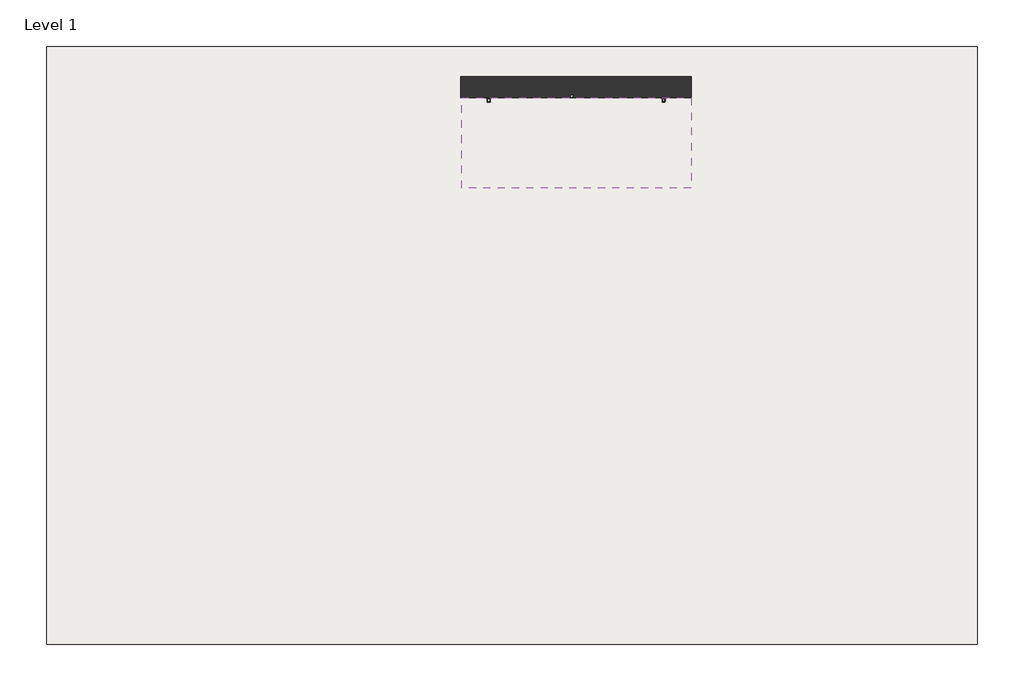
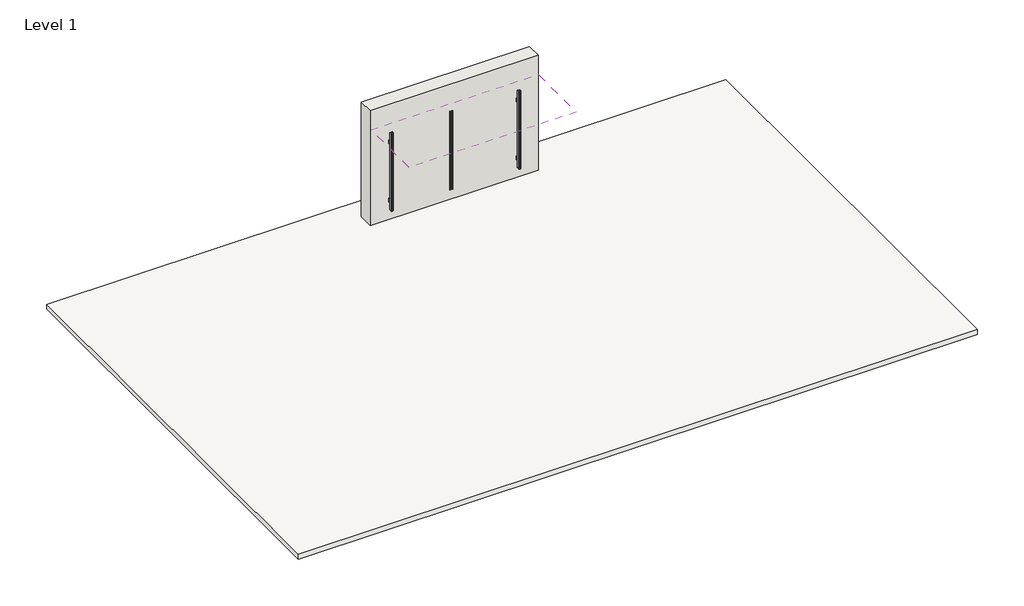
# One storey: 3 light fixtures, 1 covering, 1 slab, 1 wall.
"""IFC4 building model written with IfcOpenShell, lengths in millimetres."""

from ifc_helpers import new_model, si_unit, frame, origin, place, context, project, spatial, polyline, outline, extrude, faceted_brep, transform, mapped, element, save
from components import lighting_recessed_axis_extend_2_c471fec2, lighting_surface_mount_axis_extend_2_fe795b97

model = new_model("IFC4")

# Units and contexts
model_context = context("Model", 3, world=origin())
ifc_project = project(units=[si_unit("LENGTHUNIT", "METRE", prefix="MILLI")], contexts=[model_context])

# Site, building, storey
site = spatial("IfcSite", under=ifc_project)
building = spatial("IfcBuilding", under=site)
storey = spatial("IfcBuildingStorey", under=building, Name="Level 1", Elevation=0.0)

# Covering
placement = place(None, origin())
element("IfcCovering", 1, ObjectType="Plain", at=placement, inside=storey, context=model_context, shape_type="SweptSolid", body=[
    extrude(outline(polyline([(-3780.5571266, 5992.4697047), (1248.6428734, 5992.4697047), (1248.6428734, 4011.2697047), (-3780.5571266, 4011.2697047), (-3780.5571266, 5992.4697047)])), frame((0.0, 0.0, 3048.0), z_axis=(0.0, 0.0, 1.0), x_axis=(1.0, 0.0, 0.0)), (0.0, 0.0, 1.0), 12.7),
])

# Light fixtures
lighting_recessed_axis_extend_2_shape = lighting_recessed_axis_extend_2_c471fec2(model_context)
element("IfcLightFixture", 2, ObjectType="Lighting-Recessed-Axis-Extend_2 : EX2R-900-80-35-SO-4", at=placement, inside=storey, context=model_context, shape_type="MappedRepresentation", body=[
    mapped(lighting_recessed_axis_extend_2_shape, transform((-1367.5571266, 5992.4697047, 1549.4), x_axis=(0.0, 0.0, 1.0), y_axis=(-1.0, 0.0, 0.0), z_axis=(0.0, -1.0, 0.0))),
])
lighting_surface_mount_axis_extend_2_shape = lighting_surface_mount_axis_extend_2_fe795b97(model_context)
element("IfcLightFixture", 3, ObjectType="Lighting-Surface Mount-Axis-Extend 2 : EX2S-900-80-35-SO-4", at=placement, inside=storey, context=model_context, shape_type="MappedRepresentation", body=[
    mapped(lighting_surface_mount_axis_extend_2_shape, transform((-3221.7571266, 5992.4697047, 1549.4), x_axis=(0.0, 0.0, -1.0), y_axis=(1.0, 0.0, 0.0), z_axis=(0.0, -1.0, 0.0))),
])
element("IfcLightFixture", 4, ObjectType="Lighting-Surface Mount-Axis-Extend 2 : EX2S-900-80-35-SO-4", at=placement, inside=storey, context=model_context, shape_type="MappedRepresentation", body=[
    mapped(lighting_surface_mount_axis_extend_2_shape, transform((613.6428734, 5992.4697047, 1549.4), x_axis=(0.0, 0.0, -1.0), y_axis=(1.0, 0.0, 0.0), z_axis=(0.0, -1.0, 0.0))),
])

# Slab
element("IfcSlab", 5, ObjectType="Generic 150mm", at=placement, inside=storey, context=model_context, shape_type="SweptSolid", body=[
    extrude(outline(polyline([(7531.7635568, 7118.573374), (7531.7635568, -6007.2851693), (-12889.8364432, -6007.2851693), (-12889.8364432, 7118.573374), (7531.7635568, 7118.573374)])), frame((0.0, 0.0, -150.0), z_axis=(0.0, 0.0, 1.0), x_axis=(1.0, 0.0, 0.0)), (0.0, 0.0, 1.0), 150.0),
])

# Wall
element("IfcWall", 6, ObjectType="Exterior - Block on Mtl. Stud", at=placement, inside=storey, context=model_context, shape_type="Brep", body=[
    faceted_brep([(-3805.9571266, 5992.4697047, 0.0), (1248.6428734, 5992.4697047, 0.0), (1248.6428734, 5992.4697047, 3657.6), (-3805.9571266, 5992.4697047, 3657.6), (-1401.8471266, 5992.4697047, 306.578), (-1401.8471266, 5992.4697047, 2792.222), (-1333.2671266, 5992.4697047, 2792.222), (-1333.2671266, 5992.4697047, 306.578), (1248.6428734, 6452.4697047, 0.0), (-3805.9571266, 6452.4697047, 0.0), (-3805.9571266, 6452.4697047, 3657.6), (1248.6428734, 6452.4697047, 3657.6), (-1401.8471266, 6062.2562047, 2792.222), (-1401.8471266, 6062.2562047, 306.578), (-1333.2671266, 6062.2562047, 306.578), (-1333.2671266, 6062.2562047, 2792.222)], [[[0, 1, 2, 3], [4, 5, 6, 7]], [[8, 9, 10, 11]], [[1, 0, 9, 8]], [[2, 1, 8, 11]], [[3, 2, 11, 10]], [[0, 3, 10, 9]], [[12, 13, 14, 15]], [[13, 12, 5, 4]], [[14, 13, 4, 7]], [[15, 14, 7, 6]], [[12, 15, 6, 5]]]),
])

save(model, "model.ifc")
